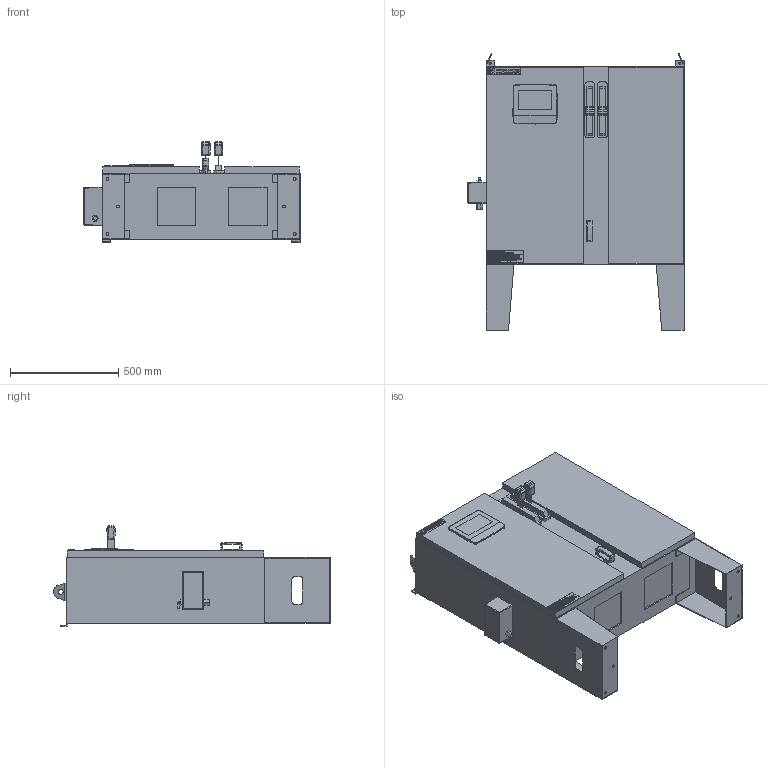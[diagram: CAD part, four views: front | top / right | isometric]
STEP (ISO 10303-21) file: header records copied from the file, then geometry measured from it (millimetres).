
FILE_DESCRIPTION (( 'STEP AP214' ), '1' );
FILE_NAME ('UL FM Electric FPC - Size 1C - Tornatech.STEP', '2024-02-22T18:38:40', ( '' ), ( '' ), 'SwSTEP 2.0', 'SolidWorks 2023', '' );
FILE_SCHEMA (( 'AUTOMOTIVE_DESIGN' ));
Length unit declared in the file: inch
Products named in the file (1): UL FM Electric FPC - Size 1C - Tornatech
Bounding box: 998.4 x 1278.6 x 462.59 mm (x, y, z)
Volume: 280049044.5 mm3; surface area: 3945715.3 mm2
Topology: 3 solids, 4 shells, 5374 faces, 14339 edges, 9521 vertices
Faces by surface type: plane 2786, bspline 2431, cylinder 112, sphere 28, torus 17
Full cylindrical faces by diameter (mm): 7.59 x2, 10 x2, 12.7 x6, 18.6 x1, 20.32 x1, 25.4 x2
Entity records: 275130 total; most frequent: CARTESIAN_POINT 157748, ORIENTED_EDGE 28608, DIRECTION 15554, EDGE_CURVE 14304, VERTEX_POINT 9509, VECTOR 9178, LINE 9178, EDGE_LOOP 5971
